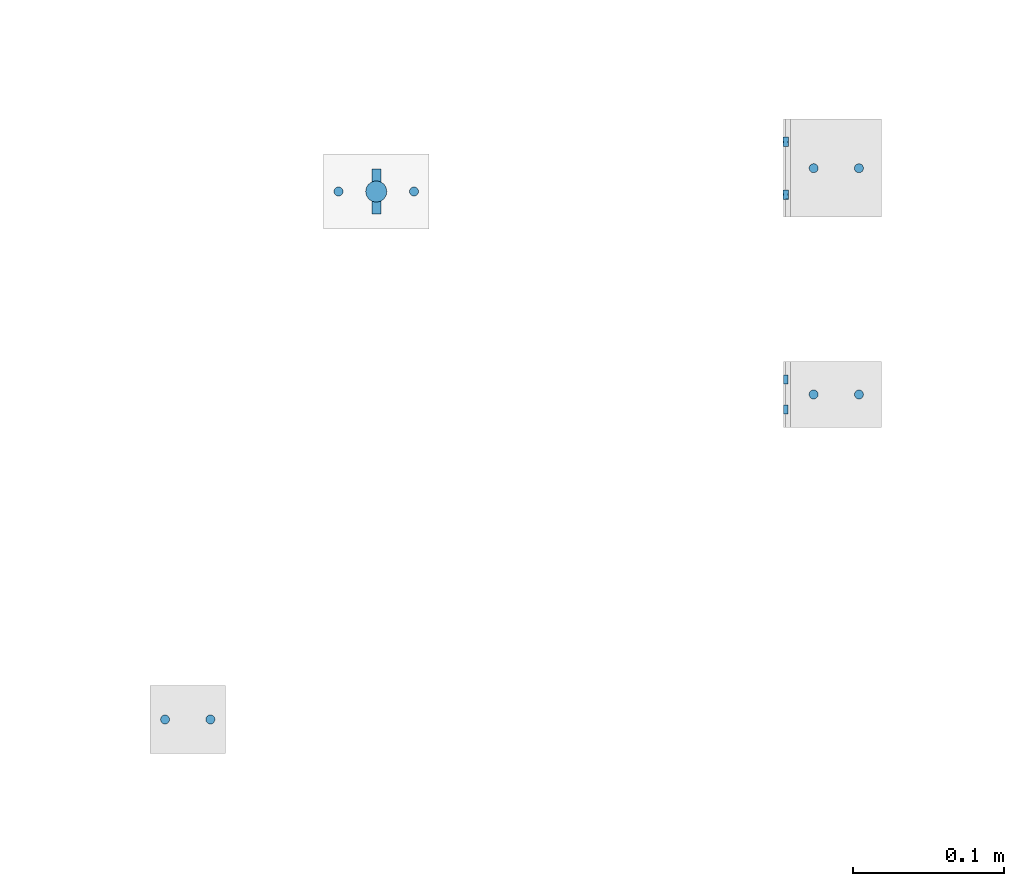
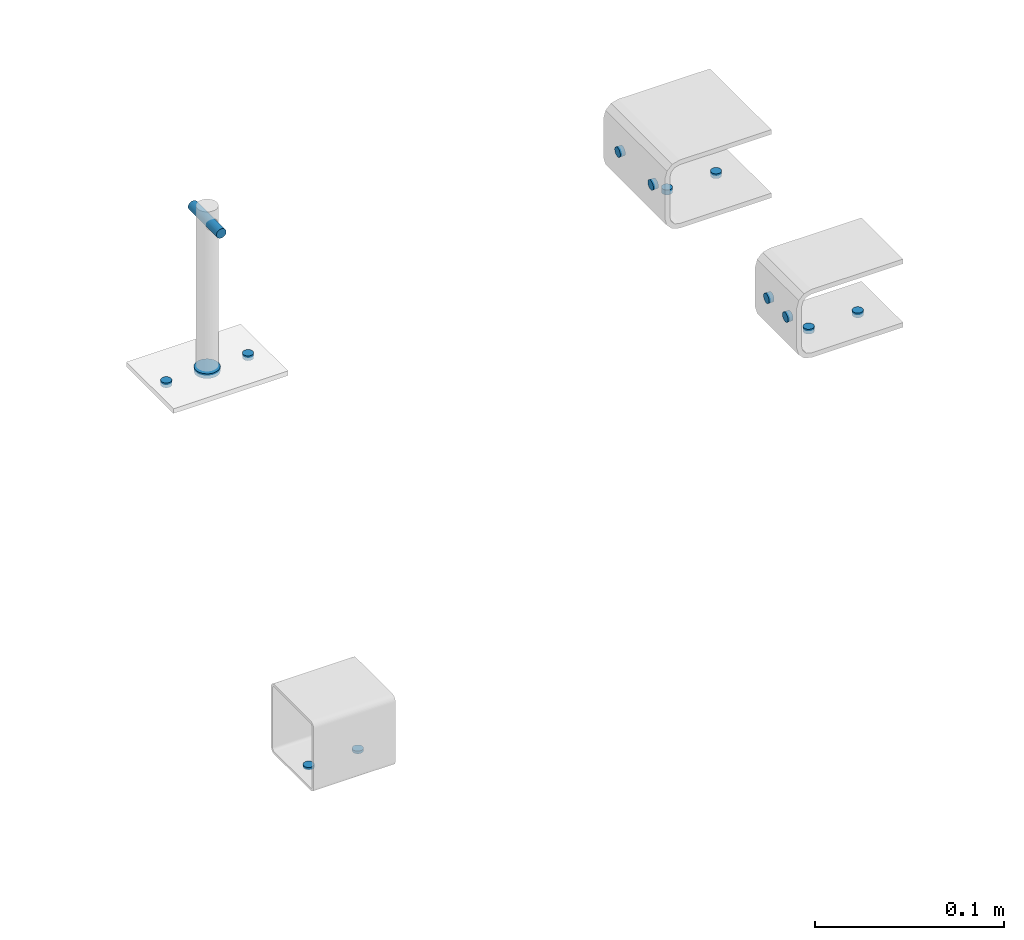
# One storey, part 53 of 91: 8 mechanical fasteners, 1 discrete accessory, 4 elements without a shape of their own.
"""IFC2X3 building model written with IfcOpenShell, lengths in millimetres."""

from ifc_helpers import new_model, si_unit, frame, origin_with_axes, origin_2d_with_axis, place, context, subcontext, project, spatial, circle, extrude, source, transform, mapped, material, type_object, element, aggregate, save


model = new_model("IFC2X3")

# Units and contexts
model_context = context("Model", 3, precision=1e-05, world=origin_with_axes())
body_context = subcontext(model_context, "Body", "Model", "MODEL_VIEW")
ifc_project = project(units=[si_unit("LENGTHUNIT", "METRE", prefix="MILLI"), si_unit("AREAUNIT", "SQUARE_METRE"), si_unit("VOLUMEUNIT", "CUBIC_METRE"), si_unit("MASSUNIT", "GRAM", prefix="KILO"), si_unit("TIMEUNIT", "SECOND"), si_unit("PLANEANGLEUNIT", "RADIAN"), si_unit("SOLIDANGLEUNIT", "STERADIAN"), si_unit("THERMODYNAMICTEMPERATUREUNIT", "DEGREE_CELSIUS"), si_unit("LUMINOUSINTENSITYUNIT", "LUMEN")], contexts=[model_context])

# Site, building, storey
site_placement = place(None, origin_with_axes())
site = spatial("IfcSite", under=ifc_project, at=site_placement, Name="Undefined", CompositionType="ELEMENT")
building_placement = place(site_placement, origin_with_axes())
building = spatial("IfcBuilding", under=site, at=building_placement, Name="Undefined", CompositionType="ELEMENT")
storey_placement = place(building_placement, origin_with_axes())
storey = spatial("IfcBuildingStorey", under=building, at=storey_placement, Name="Undefined", CompositionType="ELEMENT", Elevation=0.0)

# Assembly, mechanical fastener
assembly_1_placement = place(storey_placement, origin_with_axes())
assembly_1 = element("IfcElementAssembly", 1, at=assembly_1_placement, inside=storey, Name="PLATE", AssemblyPlace="NOTDEFINED", PredefinedType="RIGID_FRAME")
ifc_material_1 = material(Name="TEK_11TPIM")
discrete_accessory_type_1 = type_object("IfcDiscreteAccessoryType", Name="Bolt assembly")
shared_shape_1 = source(origin_with_axes(), body_context, "Body", "SweptSolid", [
    extrude(circle(Radius=3.0, at=origin_2d_with_axis()), frame((0.0, 0.0, 0.0), z_axis=(0.0, 1.0, 0.0), x_axis=(1.0, 0.0, 0.0)), (0.0, 0.0, 1.0), 3.1),
])
mechanical_fastener_1_placement = place(assembly_1_placement, frame((-116330.88, 89877.61, 3329.0), z_axis=(0.0, -1.0, 0.0), x_axis=(1.0, 0.0, 0.0)))
mechanical_fastener_1 = element("IfcMechanicalFastener", 2, at=mechanical_fastener_1_placement, type_object=discrete_accessory_type_1, material=ifc_material_1, Name="Bolt assembly", NominalDiameter=6.0, NominalLength=8.0, context=body_context, shape_type="MappedRepresentation", body=[
    mapped(shared_shape_1, transform((0.0, 0.0, 0.0))),
    mapped(shared_shape_1, transform((30.0, 0.0, 0.0))),
])

assembly_2_placement = place(storey_placement, origin_with_axes())
assembly_2 = element("IfcElementAssembly", 3, at=assembly_2_placement, inside=storey, Name="PLATE", AssemblyPlace="NOTDEFINED", PredefinedType="RIGID_FRAME")
shared_shape_2 = source(origin_with_axes(), body_context, "Body", "SweptSolid", [
    extrude(circle(Radius=3.0, at=origin_2d_with_axis()), frame((0.0, 2.00000000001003, 0.0), z_axis=(0.0, 1.0, 0.0), x_axis=(1.0, 0.0, 0.0)), (0.0, 0.0, 1.0), 3.1),
])
mechanical_fastener_2_placement = place(assembly_2_placement, frame((-116330.88, 90027.61, 3326.0), z_axis=(0.0, -1.0, 0.0), x_axis=(1.0, 0.0, 0.0)))
mechanical_fastener_2 = element("IfcMechanicalFastener", 4, at=mechanical_fastener_2_placement, type_object=discrete_accessory_type_1, material=ifc_material_1, Name="Bolt assembly", NominalDiameter=6.0, NominalLength=8.0, context=body_context, shape_type="MappedRepresentation", body=[
    mapped(shared_shape_2, transform((0.0, 0.0, 0.0))),
    mapped(shared_shape_2, transform((30.0, 0.0, 0.0))),
])

# Mechanical fastener
shared_shape_3 = source(origin_with_axes(), body_context, "Body", "SweptSolid", [
    extrude(circle(Radius=3.0, at=origin_2d_with_axis()), frame((0.0, 6.00000000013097, 0.0), z_axis=(0.0, 1.0, 0.0), x_axis=(1.0, 0.0, 0.0)), (0.0, 0.0, 1.0), 3.1),
])
mechanical_fastener_3_placement = place(assembly_1_placement, frame((-116341.88, 89877.61, 3351.0), z_axis=(0.0, 1.0, 0.0), x_axis=(0.0, 0.0, -1.0)))
mechanical_fastener_3 = element("IfcMechanicalFastener", 5, at=mechanical_fastener_3_placement, type_object=discrete_accessory_type_1, material=ifc_material_1, Name="Bolt assembly", NominalDiameter=6.0, NominalLength=8.0, context=body_context, shape_type="MappedRepresentation", body=[
    mapped(shared_shape_3, transform((0.0, 0.0, -10.0))),
    mapped(shared_shape_3, transform((0.0, 0.0, 10.0))),
])

aggregate(assembly_1, [mechanical_fastener_3, mechanical_fastener_1])

mechanical_fastener_4_placement = place(assembly_2_placement, frame((-116341.88, 90027.61, 3350.0), z_axis=(0.0, 1.0, 0.0), x_axis=(0.0, 0.0, -1.0)))
mechanical_fastener_4 = element("IfcMechanicalFastener", 6, at=mechanical_fastener_4_placement, type_object=discrete_accessory_type_1, material=ifc_material_1, Name="Bolt assembly", NominalDiameter=6.0, NominalLength=8.0, context=body_context, shape_type="MappedRepresentation", body=[
    mapped(shared_shape_3, transform((0.0, 0.0, -17.5))),
    mapped(shared_shape_3, transform((0.0, 0.0, 17.5))),
])

aggregate(assembly_2, [mechanical_fastener_4, mechanical_fastener_2])

# Assembly, mechanical fasteners, discrete accessory
assembly_3_placement = place(storey_placement, origin_with_axes())
assembly_3 = element("IfcElementAssembly", 7, at=assembly_3_placement, inside=storey, Name="PLATE", AssemblyPlace="NOTDEFINED", PredefinedType="RIGID_FRAME")
ifc_material_2 = material(Name="8.8S")
shared_shape_4 = source(origin_with_axes(), body_context, "Body", "SweptSolid", [
    extrude(circle(Radius=3.0, at=origin_2d_with_axis()), frame((0.0, -1.0, 0.0), z_axis=(0.0, 1.0, 0.0), x_axis=(1.0, 0.0, 0.0)), (0.0, 0.0, 1.0), 3.1),
])
mechanical_fastener_5_placement = place(assembly_3_placement, frame((-116595.84, 90012.15, 3324.0), z_axis=(0.0, 1.0, 0.0), x_axis=(-1.0, 0.0, 0.0)))
mechanical_fastener_5 = element("IfcMechanicalFastener", 8, at=mechanical_fastener_5_placement, type_object=discrete_accessory_type_1, material=ifc_material_2, Name="Bolt assembly", NominalDiameter=6.0, NominalLength=3.0, context=body_context, shape_type="MappedRepresentation", body=[
    mapped(shared_shape_4, transform((0.0, 0.0, 0.0))),
])
mechanical_fastener_6_placement = place(assembly_3_placement, frame((-116645.84, 90012.15, 3324.0), z_axis=(0.0, -1.0, 0.0), x_axis=(1.0, 0.0, 0.0)))
mechanical_fastener_6 = element("IfcMechanicalFastener", 9, at=mechanical_fastener_6_placement, type_object=discrete_accessory_type_1, material=ifc_material_2, Name="Bolt assembly", NominalDiameter=6.0, NominalLength=3.0, context=body_context, shape_type="MappedRepresentation", body=[
    mapped(shared_shape_4, transform((0.0, 0.0, 0.0))),
])
shared_shape_5 = source(origin_with_axes(), body_context, "Body", "SweptSolid", [
    extrude(circle(Radius=7.0, at=origin_2d_with_axis()), frame((0.0, -1.0, 0.0), z_axis=(0.0, 1.0, 0.0), x_axis=(1.0, 0.0, 0.0)), (0.0, 0.0, 1.0), 3.1),
])
mechanical_fastener_7_placement = place(assembly_3_placement, frame((-116620.84, 90012.15, 3324.0), z_axis=(0.0, -1.0, 0.0), x_axis=(1.0, 0.0, 0.0)))
mechanical_fastener_7 = element("IfcMechanicalFastener", 10, at=mechanical_fastener_7_placement, type_object=discrete_accessory_type_1, material=ifc_material_2, Name="Bolt assembly", NominalDiameter=12.0, NominalLength=3.0, context=body_context, shape_type="MappedRepresentation", body=[
    mapped(shared_shape_5, transform((0.0, 0.0, 0.0))),
])
ifc_material_3 = material(Name="STEEL/250")
discrete_accessory_type_2 = type_object("IfcDiscreteAccessoryType", Name="SPRING PIN")
discrete_accessory_placement = place(assembly_3_placement, frame((-116620.84, 89997.15, 3421.0), z_axis=(1.0, 0.0, 0.0), x_axis=(0.0, 1.0, 0.0)))
discrete_accessory = element("IfcDiscreteAccessory", 11, at=discrete_accessory_placement, type_object=discrete_accessory_type_2, material=ifc_material_3, Name="SPRING PIN", ObjectType="D6", context=body_context, shape_type="SweptSolid", body=[
    extrude(circle(Radius=3.0, at=origin_2d_with_axis()), frame((30.0, 0.0, 0.0), z_axis=(-1.0, 0.0, 0.0), x_axis=(0.0, -1.0, 0.0)), (0.0, 0.0, 1.0), 30.0),
])
aggregate(assembly_3, [mechanical_fastener_5, mechanical_fastener_6, mechanical_fastener_7, discrete_accessory])

# Assembly, mechanical fastener
assembly_4_placement = place(storey_placement, origin_with_axes())
assembly_4 = element("IfcElementAssembly", 12, at=assembly_4_placement, inside=storey, Name="SLIDING DOOR INSERT", AssemblyPlace="NOTDEFINED", PredefinedType="RIGID_FRAME")
shared_shape_6 = source(origin_with_axes(), body_context, "Body", "SweptSolid", [
    extrude(circle(Radius=3.0, at=origin_2d_with_axis()), frame((0.0, 2.5, 0.0), z_axis=(0.0, 1.0, 0.0), x_axis=(1.0, 0.0, 0.0)), (0.0, 0.0, 1.0), 1.7),
])
mechanical_fastener_8_placement = place(assembly_4_placement, frame((-116760.84, 89662.15, 3326.0), z_axis=(0.0, -1.0, 0.0), x_axis=(1.0, 0.0, 0.0)))
mechanical_fastener_8 = element("IfcMechanicalFastener", 13, at=mechanical_fastener_8_placement, type_object=discrete_accessory_type_1, material=ifc_material_1, Name="Bolt assembly", NominalDiameter=6.0, NominalLength=6.59999990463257, context=body_context, shape_type="MappedRepresentation", body=[
    mapped(shared_shape_6, transform((0.0, 0.0, 0.0))),
    mapped(shared_shape_6, transform((30.0, 0.0, 0.0))),
])
aggregate(assembly_4, [mechanical_fastener_8])

save(model, "model.ifc")
